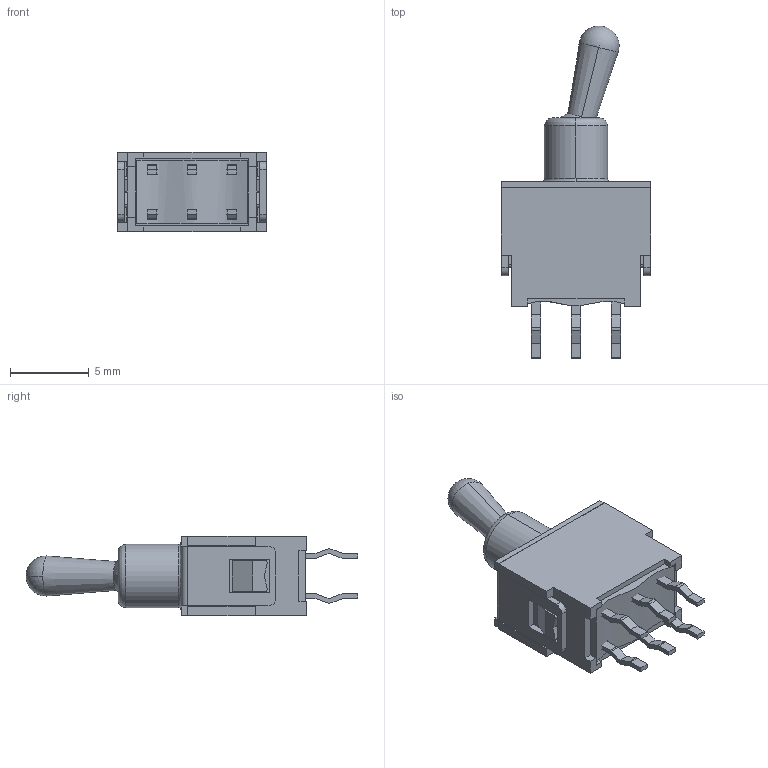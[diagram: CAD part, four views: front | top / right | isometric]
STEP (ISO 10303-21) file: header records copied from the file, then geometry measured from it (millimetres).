
FILE_DESCRIPTION (( 'STEP AP203' ), '1' );
FILE_NAME ('2TED1M2RES.STEP', '2015-10-12T07:49:44', ( '970704' ), ( '' ), 'SwSTEP 2.0', 'SolidWorks 2012', '' );
FILE_SCHEMA (( 'CONFIG_CONTROL_DESIGN' ));
Length unit declared in the file: millimetre
Products named in the file (8): 2TED1M2RES; EPOXY-03-2; TE-2TA2_TE-2TE2  折腳後-1-1; TE-2TA2_TE-2TE2  折腳後-1; FCA-2TE2-1; TO-2TE1-2; HX-2TE1-2; HO-2TEXS-2
Assembly tree (7 placements, depth 2):
  2TED1M2RES
    HO-2TEXS-2
    HX-2TE1-2
    TO-2TE1-2
    FCA-2TE2-1
    TE-2TA2_TE-2TE2  折腳後-1
    TE-2TA2_TE-2TE2  折腳後-1-1
    EPOXY-03-2
Bounding box: 9.5 x 21.03 x 5.05 mm (x, y, z)
Volume: 250.4 mm3; surface area: 1094.3 mm2
Topology: 11 solids, 11 shells, 548 faces, 1543 edges, 1019 vertices
Faces by surface type: plane 314, cylinder 214, bspline 12, cone 6, sphere 2
Entity records: 19079 total; most frequent: CARTESIAN_POINT 3811, ORIENTED_EDGE 3072, DIRECTION 3018, EDGE_CURVE 1536, LINE 1064, VECTOR 1064, VERTEX_POINT 1016, AXIS2_PLACEMENT_3D 977
